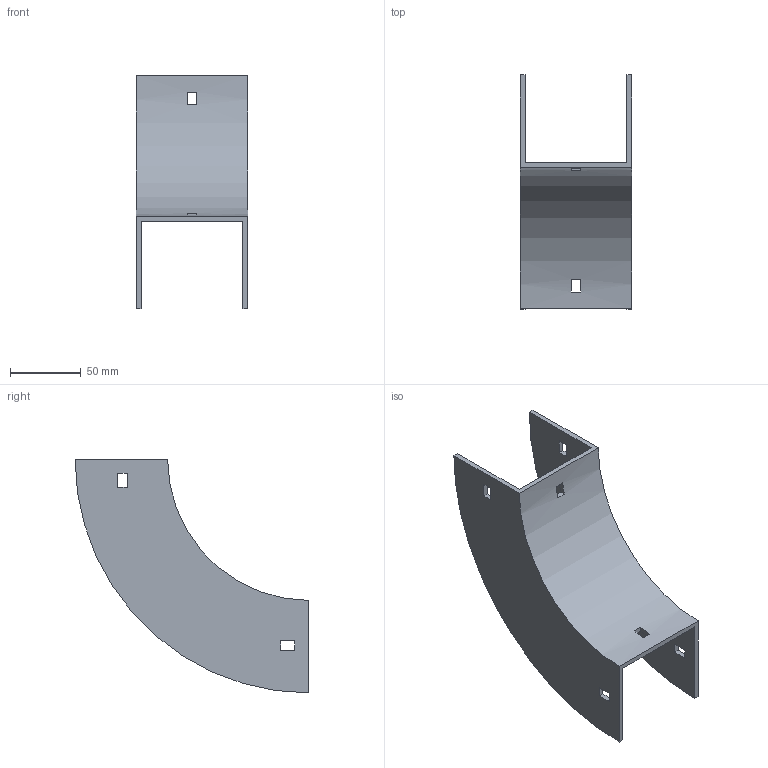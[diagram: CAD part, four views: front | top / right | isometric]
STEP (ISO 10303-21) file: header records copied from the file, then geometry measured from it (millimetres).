
FILE_DESCRIPTION (( 'STEP AP214' ), '1' );
FILE_NAME ('33B1H075.step', '2025-02-21T09:31:54', ( '' ), ( '' ), 'SwSTEP 2.0', 'SolidWorks 2023', '' );
FILE_SCHEMA (( 'AUTOMOTIVE_DESIGN' ));
Length unit declared in the file: millimetre
Products named in the file (1): 33B1H075
Bounding box: 79 x 165.5 x 165.5 mm (x, y, z)
Volume: 134489.5 mm3; surface area: 80768.7 mm2
Topology: 1 solids, 1 shells, 34 faces, 96 edges, 64 vertices
Faces by surface type: plane 30, cylinder 4
Entity records: 1143 total; most frequent: CARTESIAN_POINT 195, ORIENTED_EDGE 192, DIRECTION 182, EDGE_CURVE 96, VECTOR 80, LINE 80, VERTEX_POINT 64, AXIS2_PLACEMENT_3D 51
